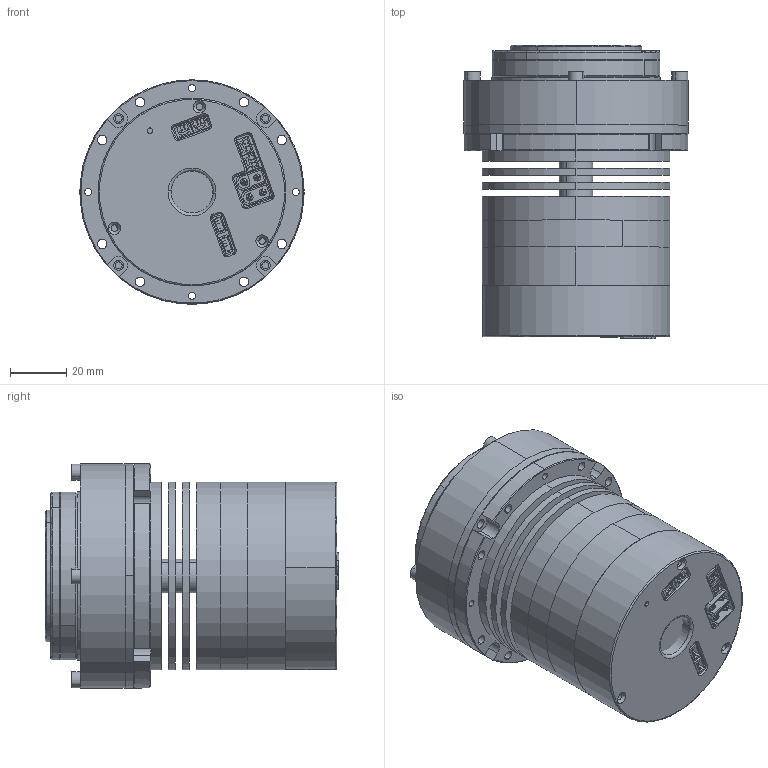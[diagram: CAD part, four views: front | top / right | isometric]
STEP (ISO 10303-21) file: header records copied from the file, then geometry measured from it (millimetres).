
FILE_DESCRIPTION (( 'STEP AP203' ), '1' );
FILE_NAME ('1MT.055.024（RH-17-100-E-B 一体化谐波减速模组-双编+抱闸+ECAT）.STEP', '2024-10-30T03:48:21', ( '' ), ( '' ), 'SwSTEP 2.0', 'SolidWorks 2020', '' );
FILE_SCHEMA (( 'CONFIG_CONTROL_DESIGN' ));
Length unit declared in the file: millimetre
Products named in the file (1): 1MT.055.024（RH-17-100-E-B 一体化谐波减速模组-双编+抱闸+ECAT）
Bounding box: 80 x 104.76 x 80 mm (x, y, z)
Surface area: 61556.6 mm2 (no closed solid volume)
Topology: 0 solids, 68 shells, 620 faces, 3289 edges, 2726 vertices
Faces by surface type: plane 358, cylinder 195, cone 43, bspline 16, torus 8
Entity records: 33463 total; most frequent: CARTESIAN_POINT 7974, DIRECTION 5125, ORIENTED_EDGE 4378, EDGE_CURVE 3289, VERTEX_POINT 2726, LINE 2071, VECTOR 2071, AXIS2_PLACEMENT_3D 1527
